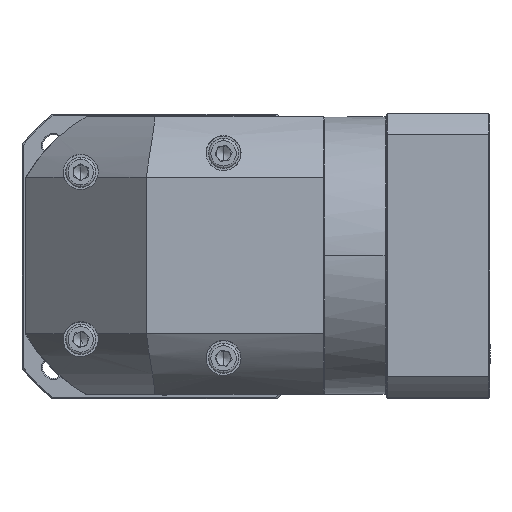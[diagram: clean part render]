
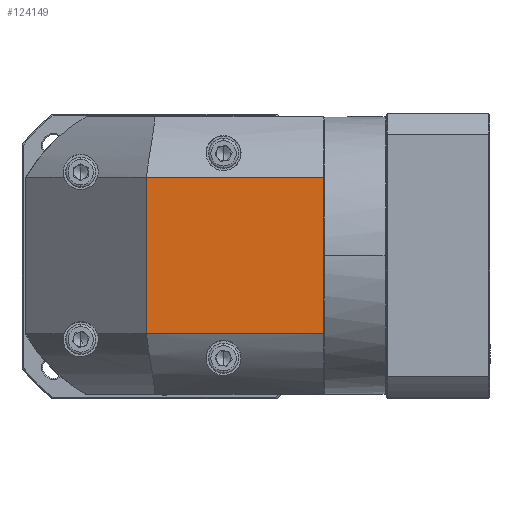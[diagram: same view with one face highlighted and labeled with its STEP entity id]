
A CAD part, top view. The second image highlights one B-rep face of the part: STEP entity #124149.
In plain terms, the highlighted planar face has unit normal (0, 0, 1).
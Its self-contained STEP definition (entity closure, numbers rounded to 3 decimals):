
#2269 = DIRECTION ( 'NONE',  ( 0., 1., 0. ) ) ;
#2461 = LINE ( 'NONE', #8298, #128797 ) ;
#4095 = EDGE_CURVE ( 'NONE', #27409, #4290, #72596, .T. ) ;
#4290 = VERTEX_POINT ( 'NONE', #132954 ) ;
#5555 = ORIENTED_EDGE ( 'NONE', *, *, #95003, .F. ) ;
#8298 = CARTESIAN_POINT ( 'NONE',  ( -18.927, 121.297, 97.205 ) ) ;
#10714 = VERTEX_POINT ( 'NONE', #130620 ) ;
#12843 = FACE_OUTER_BOUND ( 'NONE', #113654, .T. ) ;
#20997 = VECTOR ( 'NONE', #134163, 1000. ) ;
#21996 = PLANE ( 'NONE',  #103730 ) ;
#27409 = VERTEX_POINT ( 'NONE', #93227 ) ;
#30537 = CARTESIAN_POINT ( 'NONE',  ( 104.473, 121.297, 97.205 ) ) ;
#42364 = VERTEX_POINT ( 'NONE', #30537 ) ;
#43974 = CARTESIAN_POINT ( 'NONE',  ( -18.927, 56.497, 97.205 ) ) ;
#44489 = DIRECTION ( 'NONE',  ( 0., 0., -1. ) ) ;
#51182 = EDGE_CURVE ( 'NONE', #4290, #42364, #2461, .T. ) ;
#58477 = ORIENTED_EDGE ( 'NONE', *, *, #4095, .F. ) ;
#61870 = CARTESIAN_POINT ( 'NONE',  ( 104.473, 146.397, 97.205 ) ) ;
#72596 = LINE ( 'NONE', #126224, #122862 ) ;
#72956 = DIRECTION ( 'NONE',  ( -1., 0., 0. ) ) ;
#83735 = DIRECTION ( 'NONE',  ( 1., 0., 0. ) ) ;
#83908 = ORIENTED_EDGE ( 'NONE', *, *, #94048, .F. ) ;
#84282 = CARTESIAN_POINT ( 'NONE',  ( 38.573, 88.897, 97.205 ) ) ;
#93227 = CARTESIAN_POINT ( 'NONE',  ( 31.073, 56.497, 97.205 ) ) ;
#94048 = EDGE_CURVE ( 'NONE', #10714, #27409, #110363, .T. ) ;
#95003 = EDGE_CURVE ( 'NONE', #42364, #10714, #126044, .T. ) ;
#96015 = DIRECTION ( 'NONE',  ( 0., -1., 0. ) ) ;
#103730 = AXIS2_PLACEMENT_3D ( 'NONE', #84282, #44489, #96015 ) ;
#110363 = LINE ( 'NONE', #43974, #113641 ) ;
#113641 = VECTOR ( 'NONE', #72956, 1000. ) ;
#113654 = EDGE_LOOP ( 'NONE', ( #115106, #58477, #83908, #5555 ) ) ;
#115106 = ORIENTED_EDGE ( 'NONE', *, *, #51182, .F. ) ;
#122862 = VECTOR ( 'NONE', #2269, 1000. ) ;
#124149 = ADVANCED_FACE ( 'NONE', ( #12843 ), #21996, .F. ) ;
#126044 = LINE ( 'NONE', #61870, #20997 ) ;
#126224 = CARTESIAN_POINT ( 'NONE',  ( 31.073, 146.397, 97.205 ) ) ;
#128797 = VECTOR ( 'NONE', #83735, 1000. ) ;
#130620 = CARTESIAN_POINT ( 'NONE',  ( 104.473, 56.497, 97.205 ) ) ;
#132954 = CARTESIAN_POINT ( 'NONE',  ( 31.073, 121.297, 97.205 ) ) ;
#134163 = DIRECTION ( 'NONE',  ( 0., -1., 0. ) ) ;
